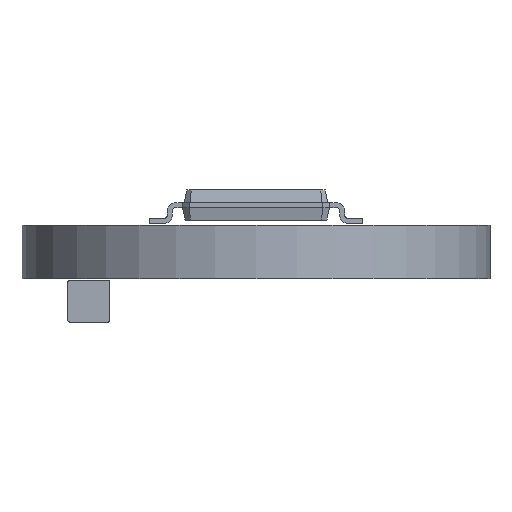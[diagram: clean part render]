
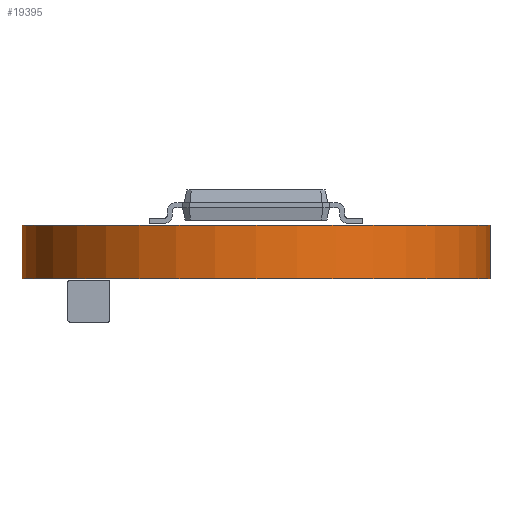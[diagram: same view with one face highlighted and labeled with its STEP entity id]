
A CAD part, front view. The second image highlights one B-rep face of the part: STEP entity #19395.
In plain terms, the highlighted cylindrical face has radius 7 mm (diameter 14 mm), a full revolution.
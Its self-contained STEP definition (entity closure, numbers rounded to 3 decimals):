
#19395 = ADVANCED_FACE('',(#19396),#19409,.T.);
#19396 = FACE_BOUND('',#19397,.T.);
#19397 = EDGE_LOOP('',(#19398,#19432,#19455,#19482));
#19398 = ORIENTED_EDGE('',*,*,#19399,.F.);
#19399 = EDGE_CURVE('',#19400,#19400,#19402,.T.);
#19400 = VERTEX_POINT('',#19401);
#19401 = CARTESIAN_POINT('',(12.5,9.5,1.6));
#19402 = SURFACE_CURVE('',#19403,(#19408,#19420),.PCURVE_S1.);
#19403 = CIRCLE('',#19404,7.);
#19404 = AXIS2_PLACEMENT_3D('',#19405,#19406,#19407);
#19405 = CARTESIAN_POINT('',(5.5,9.5,1.6));
#19406 = DIRECTION('',(0.,0.,1.));
#19407 = DIRECTION('',(1.,0.,-0.));
#19408 = PCURVE('',#19409,#19414);
#19409 = CYLINDRICAL_SURFACE('',#19410,7.);
#19410 = AXIS2_PLACEMENT_3D('',#19411,#19412,#19413);
#19411 = CARTESIAN_POINT('',(5.5,9.5,0.));
#19412 = DIRECTION('',(0.,0.,1.));
#19413 = DIRECTION('',(1.,0.,-0.));
#19414 = DEFINITIONAL_REPRESENTATION('',(#19415),#19419);
#19415 = LINE('',#19416,#19417);
#19416 = CARTESIAN_POINT('',(0.,1.6));
#19417 = VECTOR('',#19418,1.);
#19418 = DIRECTION('',(1.,0.));
#19419 = ( GEOMETRIC_REPRESENTATION_CONTEXT(2) 
PARAMETRIC_REPRESENTATION_CONTEXT() REPRESENTATION_CONTEXT('2D SPACE',''
  ) );
#19420 = PCURVE('',#19421,#19426);
#19421 = PLANE('',#19422);
#19422 = AXIS2_PLACEMENT_3D('',#19423,#19424,#19425);
#19423 = CARTESIAN_POINT('',(5.5,9.5,1.6));
#19424 = DIRECTION('',(0.,0.,1.));
#19425 = DIRECTION('',(1.,0.,-0.));
#19426 = DEFINITIONAL_REPRESENTATION('',(#19427),#19431);
#19427 = CIRCLE('',#19428,7.);
#19428 = AXIS2_PLACEMENT_2D('',#19429,#19430);
#19429 = CARTESIAN_POINT('',(0.,0.));
#19430 = DIRECTION('',(1.,0.));
#19431 = ( GEOMETRIC_REPRESENTATION_CONTEXT(2) 
PARAMETRIC_REPRESENTATION_CONTEXT() REPRESENTATION_CONTEXT('2D SPACE',''
  ) );
#19432 = ORIENTED_EDGE('',*,*,#19433,.F.);
#19433 = EDGE_CURVE('',#19434,#19400,#19436,.T.);
#19434 = VERTEX_POINT('',#19435);
#19435 = CARTESIAN_POINT('',(12.5,9.5,0.));
#19436 = SEAM_CURVE('',#19437,(#19441,#19448),.PCURVE_S1.);
#19437 = LINE('',#19438,#19439);
#19438 = CARTESIAN_POINT('',(12.5,9.5,0.));
#19439 = VECTOR('',#19440,1.);
#19440 = DIRECTION('',(0.,0.,1.));
#19441 = PCURVE('',#19409,#19442);
#19442 = DEFINITIONAL_REPRESENTATION('',(#19443),#19447);
#19443 = LINE('',#19444,#19445);
#19444 = CARTESIAN_POINT('',(6.283,-0.));
#19445 = VECTOR('',#19446,1.);
#19446 = DIRECTION('',(0.,1.));
#19447 = ( GEOMETRIC_REPRESENTATION_CONTEXT(2) 
PARAMETRIC_REPRESENTATION_CONTEXT() REPRESENTATION_CONTEXT('2D SPACE',''
  ) );
#19448 = PCURVE('',#19409,#19449);
#19449 = DEFINITIONAL_REPRESENTATION('',(#19450),#19454);
#19450 = LINE('',#19451,#19452);
#19451 = CARTESIAN_POINT('',(0.,-0.));
#19452 = VECTOR('',#19453,1.);
#19453 = DIRECTION('',(0.,1.));
#19454 = ( GEOMETRIC_REPRESENTATION_CONTEXT(2) 
PARAMETRIC_REPRESENTATION_CONTEXT() REPRESENTATION_CONTEXT('2D SPACE',''
  ) );
#19455 = ORIENTED_EDGE('',*,*,#19456,.T.);
#19456 = EDGE_CURVE('',#19434,#19434,#19457,.T.);
#19457 = SURFACE_CURVE('',#19458,(#19463,#19470),.PCURVE_S1.);
#19458 = CIRCLE('',#19459,7.);
#19459 = AXIS2_PLACEMENT_3D('',#19460,#19461,#19462);
#19460 = CARTESIAN_POINT('',(5.5,9.5,0.));
#19461 = DIRECTION('',(0.,0.,1.));
#19462 = DIRECTION('',(1.,0.,-0.));
#19463 = PCURVE('',#19409,#19464);
#19464 = DEFINITIONAL_REPRESENTATION('',(#19465),#19469);
#19465 = LINE('',#19466,#19467);
#19466 = CARTESIAN_POINT('',(0.,0.));
#19467 = VECTOR('',#19468,1.);
#19468 = DIRECTION('',(1.,0.));
#19469 = ( GEOMETRIC_REPRESENTATION_CONTEXT(2) 
PARAMETRIC_REPRESENTATION_CONTEXT() REPRESENTATION_CONTEXT('2D SPACE',''
  ) );
#19470 = PCURVE('',#19471,#19476);
#19471 = PLANE('',#19472);
#19472 = AXIS2_PLACEMENT_3D('',#19473,#19474,#19475);
#19473 = CARTESIAN_POINT('',(5.5,9.5,0.));
#19474 = DIRECTION('',(0.,0.,1.));
#19475 = DIRECTION('',(1.,0.,-0.));
#19476 = DEFINITIONAL_REPRESENTATION('',(#19477),#19481);
#19477 = CIRCLE('',#19478,7.);
#19478 = AXIS2_PLACEMENT_2D('',#19479,#19480);
#19479 = CARTESIAN_POINT('',(0.,0.));
#19480 = DIRECTION('',(1.,0.));
#19481 = ( GEOMETRIC_REPRESENTATION_CONTEXT(2) 
PARAMETRIC_REPRESENTATION_CONTEXT() REPRESENTATION_CONTEXT('2D SPACE',''
  ) );
#19482 = ORIENTED_EDGE('',*,*,#19433,.T.);
